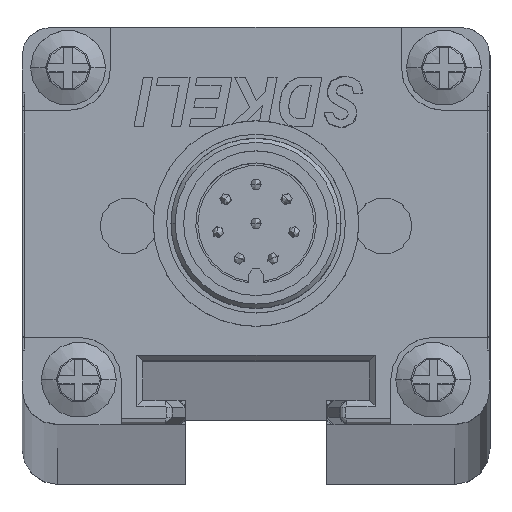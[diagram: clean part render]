
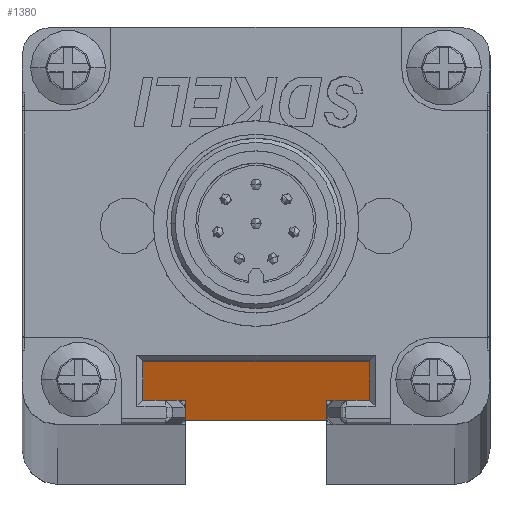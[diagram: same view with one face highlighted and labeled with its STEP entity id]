
A CAD part, top view. The second image highlights one B-rep face of the part: STEP entity #1380.
In plain terms, the highlighted planar face has unit normal (0, -1, 0).
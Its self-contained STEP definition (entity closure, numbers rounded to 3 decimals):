
#2=DIRECTION('',(1.,0.,0.));
#3=VECTOR('',#2,19.608);
#4=CARTESIAN_POINT('',(-9.804,-8.928,0.));
#5=LINE('',#4,#3);
#310=DIRECTION('',(0.,0.,1.));
#311=VECTOR('',#310,2400.);
#312=CARTESIAN_POINT('',(-9.804,-8.928,0.));
#313=LINE('',#312,#311);
#602=DIRECTION('',(0.,0.,1.));
#603=VECTOR('',#602,2400.);
#604=CARTESIAN_POINT('',(9.804,-8.928,0.));
#605=LINE('',#604,#603);
#606=DIRECTION('',(1.,0.,0.));
#607=VECTOR('',#606,19.608);
#608=CARTESIAN_POINT('',(-9.804,-8.928,2400.));
#609=LINE('',#608,#607);
#914=CARTESIAN_POINT('',(-9.804,-8.928,0.));
#915=CARTESIAN_POINT('',(9.804,-8.928,0.));
#916=VERTEX_POINT('',#914);
#917=VERTEX_POINT('',#915);
#1062=CARTESIAN_POINT('',(-9.804,-8.928,2400.));
#1063=CARTESIAN_POINT('',(9.804,-8.928,2400.));
#1064=VERTEX_POINT('',#1062);
#1065=VERTEX_POINT('',#1063);
#1366=CARTESIAN_POINT('',(-9.804,-8.928,0.));
#1367=DIRECTION('',(0.,-1.,0.));
#1368=DIRECTION('',(1.,0.,0.));
#1369=AXIS2_PLACEMENT_3D('',#1366,#1367,#1368);
#1370=PLANE('',#1369);
#1371=ORIENTED_EDGE('',*,*,#1215,.F.);
#1373=ORIENTED_EDGE('',*,*,#1372,.T.);
#1375=ORIENTED_EDGE('',*,*,#1374,.T.);
#1377=ORIENTED_EDGE('',*,*,#1376,.F.);
#1378=EDGE_LOOP('',(#1371,#1373,#1375,#1377));
#1379=FACE_OUTER_BOUND('',#1378,.F.);
#1380=ADVANCED_FACE('',(#1379),#1370,.T.);
#1215=EDGE_CURVE('',#916,#917,#5,.T.);
#1372=EDGE_CURVE('',#916,#1064,#313,.T.);
#1374=EDGE_CURVE('',#1064,#1065,#609,.T.);
#1376=EDGE_CURVE('',#917,#1065,#605,.T.);
